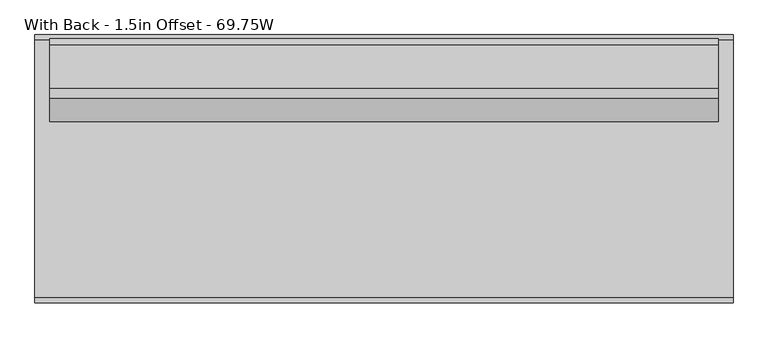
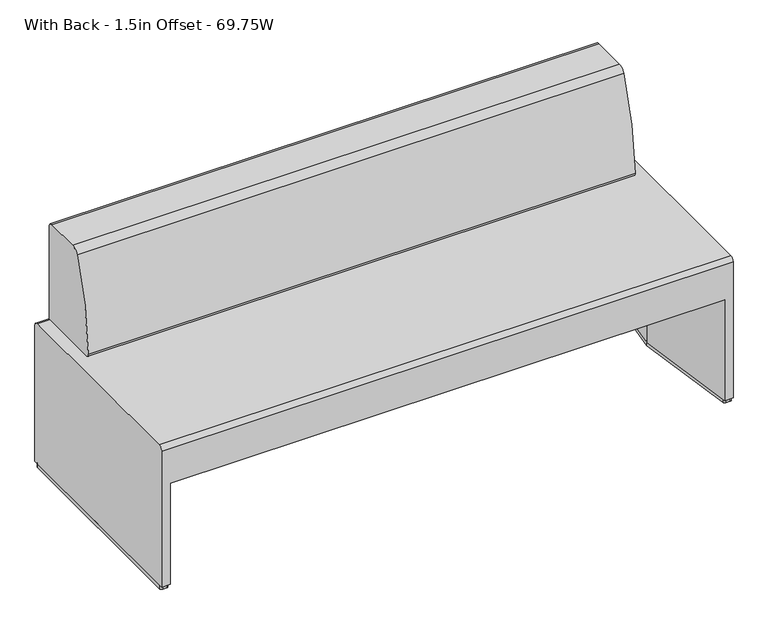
"""IFC4 building model written with IfcOpenShell, lengths in millimetres: furniture geometry, Coalesse_AM_Seating_Bench_Together_Straight : With Back - 1.5in Offset - 69.75W."""

from ifc_helpers import new_model, si_unit, point, frame, frame_2d, origin, origin_with_axes, place, context, project, spatial, polyline, circle_curve, trimmed, segment, composite_curve, outline, extrude, source, transform, mapped, element, save
from ifc_brep_helpers import plane_surface, cylinder_surface, advanced_brep


def with_back_1_5in_offset_69_75w_d7341e1c(model_context):
    return source(origin(), model_context, "Body", "SolidModel", [
        advanced_brep(
        [(211.1974085, 12.7, 471.2287949), (211.1974085, 0.0, 458.5287949), (211.1974085, 0.0, 12.7976677), (211.1974085, 680.4865973, 12.7976677), (211.1974085, 680.4865973, 458.5287949), (211.1974085, 667.7865973, 471.2287949), (-1560.4525915, 12.7, 471.2287949), (-1560.4525915, 667.7865973, 471.2287949), (-1560.4525915, 680.4865973, 458.5287949), (-1560.4525915, 680.4865973, 12.7976677), (-1560.4525915, 0.0, 12.7976677), (-1560.4525915, 0.0, 458.5287949), (-1534.2758116, 0.0, 12.7976677), (-1534.2758116, 0.0, 343.3718099), (185.0217103, 0.0, 343.3718099), (185.0206286, 0.0, 12.7976677), (-1489.9443111, 337.8527218, 343.3718099), (-1534.5828635, 680.4865973, 343.3718099), (185.3276806, 680.4865973, 343.3718099), (140.6891281, 337.8527218, 343.3718099), (185.3287419, 680.4865973, 12.7976677), (-1534.5839248, 680.4865973, 12.7976677), (-1489.9443111, 337.8527218, 12.7976677), (140.6891281, 337.8527218, 12.7976677)],
        [
            (0, 1, circle_curve(frame((211.1974085, 12.7, 458.5287949), z_axis=(1.0, 0.0, 0.0), x_axis=(0.0, 1.0, 0.0)), 12.7)),
            (1, 2),
            (2, 3),
            (3, 4),
            (4, 5, circle_curve(frame((211.1974085, 667.7865973, 458.5287949), z_axis=(1.0, 0.0, 0.0), x_axis=(0.0, 1.0, 0.0)), 12.7)),
            (5, 0),
            (6, 7),
            (7, 8, circle_curve(frame((-1560.4525915, 667.7865973, 458.5287949), z_axis=(-1.0, 0.0, 0.0), x_axis=(0.0, 1.0, 0.0)), 12.7)),
            (8, 9),
            (9, 10),
            (10, 11),
            (11, 6, circle_curve(frame((-1560.4525915, 12.7, 458.5287949), z_axis=(-1.0, 0.0, 0.0), x_axis=(0.0, 1.0, 0.0)), 12.7)),
            (0, 6),
            (11, 1),
            (10, 12),
            (12, 13),
            (13, 14),
            (14, 15),
            (15, 2),
            (16, 17),
            (17, 18),
            (18, 19),
            (19, 14),
            (13, 16),
            (3, 20),
            (20, 18),
            (17, 21),
            (21, 9),
            (8, 4),
            (7, 5),
            (22, 12),
            (21, 22),
            (16, 22),
            (23, 20),
            (15, 23),
            (19, 23),
        ],
        [
            plane_surface(frame((211.1974085, 25.4, 458.5287949), z_axis=(1.0, 0.0, 0.0), x_axis=(0.0, 0.0, 1.0))),
            plane_surface(frame((-1560.4525915, 25.4, 458.5287949), z_axis=(-1.0, 0.0, 0.0), x_axis=(0.0, 0.0, -1.0))),
            cylinder_surface(frame((-1560.4525915, 12.7, 458.5287949), z_axis=(1.0, 0.0, 0.0), x_axis=(0.0, 1.0, 0.0)), 12.7),
            plane_surface(frame((211.1974085, 0.0, 458.5287949), z_axis=(0.0, -1.0, 0.0), x_axis=(-1.0, 0.0, 0.0))),
            plane_surface(frame((211.1974085, 0.0, 343.3718099), z_axis=(0.0, 0.0, -1.0), x_axis=(-1.0, 0.0, 0.0))),
            plane_surface(frame((211.1974085, 680.4865973, 343.3718099), z_axis=(0.0, 1.0, 0.0), x_axis=(-1.0, 0.0, 0.0))),
            cylinder_surface(frame((-1560.4525915, 667.7865973, 458.5287949), z_axis=(1.0, 0.0, 0.0), x_axis=(0.0, 1.0, 0.0)), 12.7),
            plane_surface(frame((211.1974085, 667.7865973, 471.2287949), z_axis=(0.0, 0.0, 1.0), x_axis=(-1.0, 0.0, 0.0))),
            plane_surface(frame((-1534.5839248, 680.4947435, 12.7976677), z_axis=(0.0, 0.0, -1.0), x_axis=(0.1291888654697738, -0.9916200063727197, 0.0))),
            plane_surface(frame((-1489.9443111, 337.8527218, 343.3718099), z_axis=(0.9916200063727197, 0.1291888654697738, 0.0), x_axis=(0.0, 0.0, -1.0))),
            plane_surface(frame((-1534.2758116, 0.0082432, 343.3718099), z_axis=(0.9915004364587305, -0.13010336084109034, 0.0), x_axis=(0.0, 0.0, -1.0))),
            plane_surface(frame((140.6891281, 337.8527218, 12.7976677), z_axis=(0.0, 0.0, -1.0), x_axis=(-0.13010336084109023, 0.9915004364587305, 0.0))),
            plane_surface(frame((140.6891281, 337.8527218, 343.3718099), z_axis=(-0.9915004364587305, -0.13010336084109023, 0.0), x_axis=(0.0, 0.0, -1.0))),
            plane_surface(frame((185.3287419, 680.4947435, 343.3718099), z_axis=(-0.9916200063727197, 0.1291888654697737, 0.0), x_axis=(0.0, 0.0, -1.0))),
        ],
        [
            (0, [[1, 2, 3, 4, 5, 6]]),
            (1, [[7, 8, 9, 10, 11, 12]]),
            (2, [[-1, 13, -12, 14]]),
            (3, [[-2, -14, -11, 15, 16, 17, 18, 19]]),
            (4, [[20, 21, 22, 23, -17, 24]]),
            (5, [[-4, 25, 26, -21, 27, 28, -9, 29]]),
            (6, [[-5, -29, -8, 30]]),
            (7, [[-6, -30, -7, -13]]),
            (8, [[31, -15, -10, -28, 32]]),
            (9, [[-32, -27, -20, 33]]),
            (10, [[-31, -33, -24, -16]]),
            (11, [[34, -25, -3, -19, 35]]),
            (12, [[-35, -18, -23, 36]]),
            (13, [[-34, -36, -22, -26]]),
        ],
    ),
        extrude(outline(composite_curve([segment(polyline([(543.9192067, 789.8987331), (655.2964795, 789.8987331)]), True, "CONTINUOUS"), segment(trimmed(circle_curve(frame_2d((655.2964795, 774.6587331)), 15.24), [point((655.2964795, 789.8987331))], [point((670.5364795, 774.6587331))], False, "CARTESIAN"), True, "CONTINUOUS"), segment(polyline([(670.5364795, 774.6587331), (670.5364795, 471.2287949), (472.3170333, 471.2287949)]), True, "CONTINUOUS"), segment(trimmed(circle_curve(frame_2d((472.3170333, 483.9287949)), 12.7), [point((472.3170333, 471.2287949))], [point((459.6227142, 484.3086129))], False, "CARTESIAN"), True, "CONTINUOUS"), segment(trimmed(circle_curve(frame_2d((1300.8534094, 459.138724)), 841.6071565), [point((459.6227142, 484.3086129))], [point((520.3637544, 774.0013994))], False, "CARTESIAN"), True, "CONTINUOUS"), segment(trimmed(circle_curve(frame_2d((543.9192067, 764.4987331)), 25.4), [point((520.3637544, 774.0013994))], [point((543.9192067, 789.8987331))], False, "CARTESIAN"), True, "CONTINUOUS")], self_intersect=False)), frame((-1522.3525915, 0.0, 0.0), z_axis=(1.0, 0.0, 0.0), x_axis=(0.0, 1.0, 0.0)), (0.0, 0.0, 1.0), 1695.45),
        extrude(outline(composite_curve([segment(polyline([(-1490.4003033, 342.7173042), (-1535.4006906, 11.5995062)]), True, "CONTINUOUS"), segment(trimmed(circle_curve(frame_2d((-1541.6928483, 12.4546385)), 6.35), [point((-1535.4006906, 11.5995062))], [point((-1541.6980349, 6.1046406))], False, "CARTESIAN"), True, "CONTINUOUS"), segment(polyline([(-1541.6980349, 6.1046406), (-1554.1552997, 6.1148157)]), True, "CONTINUOUS"), segment(trimmed(circle_curve(frame_2d((-1554.1501131, 12.4648135)), 6.35), [point((-1554.1552997, 6.1148157))], [point((-1560.500111, 12.4700002))], False, "CARTESIAN"), True, "CONTINUOUS"), segment(polyline([(-1560.500111, 12.4700002), (-1559.9645947, 668.1010803)]), True, "CONTINUOUS"), segment(trimmed(circle_curve(frame_2d((-1553.6145969, 668.0958937)), 6.35), [point((-1559.9645947, 668.1010803))], [point((-1553.6094102, 674.4458915))], False, "CARTESIAN"), True, "CONTINUOUS"), segment(polyline([(-1553.6094102, 674.4458915), (-1541.0863928, 674.4356628)]), True, "CONTINUOUS"), segment(trimmed(circle_curve(frame_2d((-1541.0921357, 667.4047129)), 7.0309522), [point((-1541.0863928, 674.4356628))], [point((-1534.1237233, 668.3404046))], False, "CARTESIAN"), True, "CONTINUOUS"), segment(polyline([(-1534.1237233, 668.3404046), (-1490.4003033, 342.7173042)]), True, "CONTINUOUS")], self_intersect=False)), origin_with_axes(), (0.0, 0.0, 1.0), 12.7976677),
        extrude(outline(composite_curve([segment(polyline([(141.1451204, 342.7173042), (184.8685403, 668.3404046)]), True, "CONTINUOUS"), segment(trimmed(circle_curve(frame_2d((191.8369527, 667.4047129)), 7.0309522), [point((184.8685403, 668.3404046))], [point((191.8312098, 674.4356628))], False, "CARTESIAN"), True, "CONTINUOUS"), segment(polyline([(191.8312098, 674.4356628), (204.3542272, 674.4458915)]), True, "CONTINUOUS"), segment(trimmed(circle_curve(frame_2d((204.3594139, 668.0958937)), 6.35), [point((204.3542272, 674.4458915))], [point((210.7094118, 668.1010803))], False, "CARTESIAN"), True, "CONTINUOUS"), segment(polyline([(210.7094118, 668.1010803), (211.244928, 12.4700002)]), True, "CONTINUOUS"), segment(trimmed(circle_curve(frame_2d((204.8949301, 12.4648135)), 6.35), [point((211.244928, 12.4700002))], [point((204.9001168, 6.1148157))], False, "CARTESIAN"), True, "CONTINUOUS"), segment(polyline([(204.9001168, 6.1148157), (192.442852, 6.1046406)]), True, "CONTINUOUS"), segment(trimmed(circle_curve(frame_2d((192.4376653, 12.4546385)), 6.35), [point((192.442852, 6.1046406))], [point((186.1455076, 11.5995062))], False, "CARTESIAN"), True, "CONTINUOUS"), segment(polyline([(186.1455076, 11.5995062), (141.1451204, 342.7173042)]), True, "CONTINUOUS")], self_intersect=False)), origin_with_axes(), (0.0, 0.0, 1.0), 12.7976677),
    ])


if __name__ == "__main__":
    model = new_model("IFC4")
    model_context = context("Model", 3, world=origin())
    ifc_project = project(units=[si_unit("LENGTHUNIT", "METRE", prefix="MILLI")], contexts=[model_context])
    site = spatial("IfcSite", under=ifc_project)
    building = spatial("IfcBuilding", under=site)
    placement = place(None, origin())
    with_back_1_5in_offset_69_75w_shape = with_back_1_5in_offset_69_75w_d7341e1c(model_context)
    element("IfcFurniture", 1, ObjectType="Coalesse_AM_Seating_Bench_Together_Straight : With Back - 1.5in Offset - 69.75W", at=placement, inside=building, context=model_context, shape_type="MappedRepresentation", body=[
        mapped(with_back_1_5in_offset_69_75w_shape, transform((0.0, 0.0, 0.0), x_axis=(1.0, 0.0, 0.0), y_axis=(0.0, 1.0, 0.0), z_axis=(0.0, 0.0, 1.0))),
    ])
    save(model, "model.ifc")
